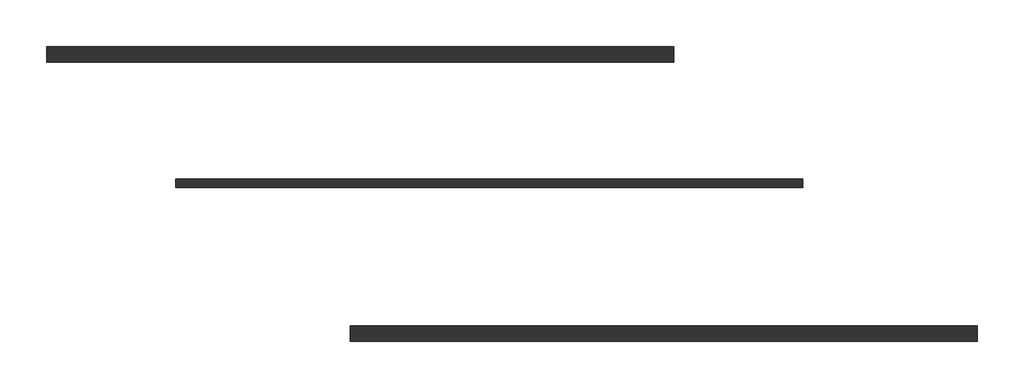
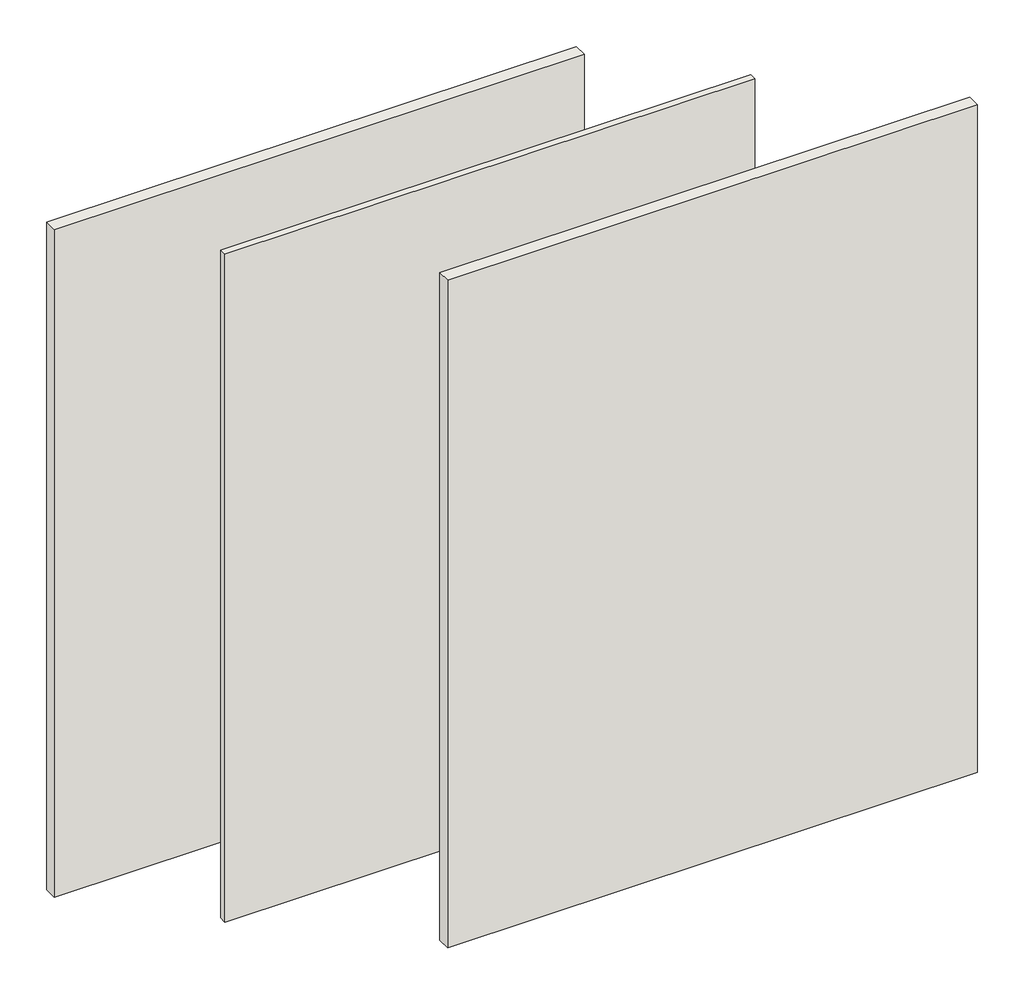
# One storey: 3 walls.
"""IFC4 building model written with IfcOpenShell, lengths in millimetres."""

from ifc_helpers import new_model, si_unit, origin, origin_with_axes, place, context, project, spatial, polyline, outline, extrude, element, save

model = new_model("IFC4")

# Units and contexts
model_context = context("Model", 3, world=origin())
ifc_project = project(units=[si_unit("LENGTHUNIT", "METRE", prefix="MILLI")], contexts=[model_context])

# Site, building, storey
site = spatial("IfcSite", under=ifc_project)
building = spatial("IfcBuilding", under=site)
storey = spatial("IfcBuildingStorey", under=building, Name="Уровень 1", Elevation=0.0)

# Walls
placement = place(None, origin())
element("IfcWall", 1, ObjectType="Облицовка КНАУФ С 623C Применение внутри здания ПП60/27 ПН28х27 ГСП-А 12.5 Акустика 12.5", at=placement, inside=storey, context=model_context, shape_type="SweptSolid", body=[
    extrude(outline(polyline([(1551.4954628, 220.7847169), (-1448.5045372, 220.7847169), (-1448.5045372, 295.7847169), (1551.4954628, 295.7847169), (1551.4954628, 220.7847169)])), origin_with_axes(), (0.0, 0.0, 1.0), 4000.0),
])
element("IfcWall", 2, ObjectType="Облицовка КНАУФ С623 Применение внутри здания ГСП-А с однослойной обшивкой 12.5", at=placement, inside=storey, context=model_context, shape_type="SweptSolid", body=[
    extrude(outline(polyline([(2170.7529883, -379.2152831), (-829.2470117, -379.2152831), (-829.2470117, -339.2152831), (2170.7529883, -339.2152831), (2170.7529883, -379.2152831)])), origin_with_axes(), (0.0, 0.0, 1.0), 4000.0),
])
element("IfcWall", 3, ObjectType="Облицовка КНАУФ С 623C Применение внутри здания ПП60/27 ПН28х27 ГСП-А 12.5 Акустика 12.5", at=placement, inside=storey, context=model_context, shape_type="SweptSolid", body=[
    extrude(outline(polyline([(3005.7142123, -1117.0800597), (5.7142123, -1117.0800597), (5.7142123, -1042.0800597), (3005.7142123, -1042.0800597), (3005.7142123, -1117.0800597)])), origin_with_axes(), (0.0, 0.0, 1.0), 4000.0),
])

save(model, "model.ifc")
